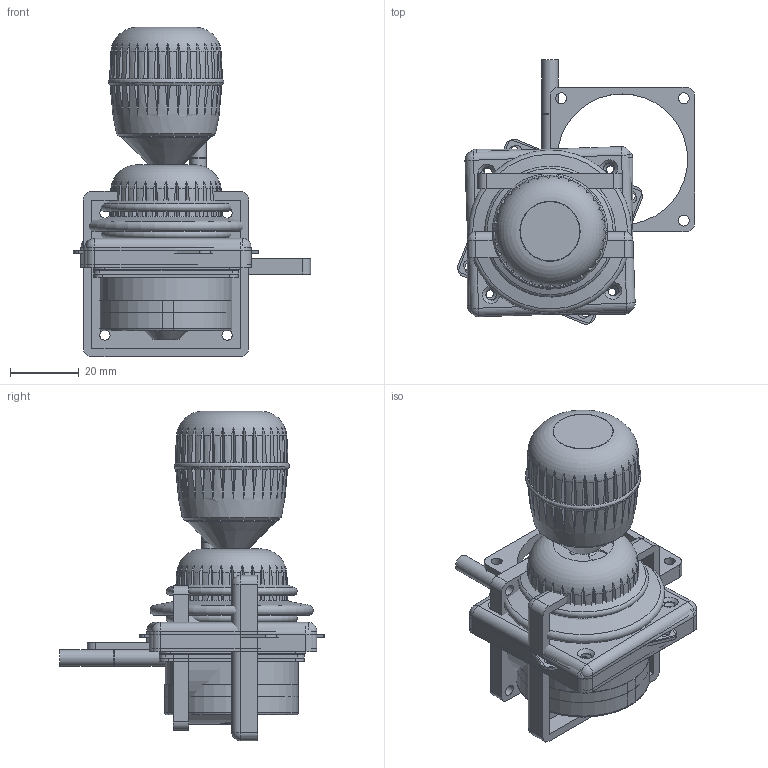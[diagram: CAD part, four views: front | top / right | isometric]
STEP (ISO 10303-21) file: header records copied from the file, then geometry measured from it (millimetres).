
FILE_DESCRIPTION( ( 'Unknown' ), '1' );
FILE_NAME( 'S:/SwitchPanels/Radek/Joysticks/3000/3000/3140SAL600/3140SAL600.stp', 'Unknown', ( 'Unknown' ), ( 'Unknown' ), 'PSStep 13.0', 'Unknown', ' ' );
FILE_SCHEMA( ( 'AUTOMOTIVE_DESIGN { 1 0 10303 214 1 1 1 1 }' ) );
Length unit declared in the file: millimetre
Products named in the file (37): AP 001; AP 008; 3000 NoKnob_0; AP 004; AP 005; AP 003; AP 006; 314; Assem1; AP 007; 3000 Shaft ball; 3000 Lever; 3000 Ball pivot; 3000 body square; 3000 body round; 3000 carming lock1; 3000 base brass; 3000 cone base; 3000 magnet; 3000 pcb ring; 3000 ic; 3000 pcb; 3000 metal plate; 3000 body base; 3000 starlock; 3000 starlock base; 3000 spring; 3000 Holder-spring; 3000 cone; 3000 geitor base; BEZEL; 910144 Bsh 3 Axis Finishing Cap; 910143 Bsh 3 Axis Knob Plastic; 910140 Fixed 3 axis Knob; 910076 3 Axis Lower Body Plastic; COMPRESSED GAITOR
Bounding box: 68.91 x 76.88 x 95.66 mm (x, y, z)
Volume: 220414.2 mm3; surface area: 287060.9 mm2
Topology: 157 solids, 157 shells, 3586 faces, 9189 edges, 6035 vertices
Faces by surface type: plane 2179, cylinder 1093, torus 99, bspline 87, cone 75, sphere 53
Full cylindrical faces by diameter (mm): 1.3 x8, 1.6 x27, 1.85 x4, 1.9 x32, 2 x4, 3 x64, 3.1 x16, 3.2 x32, 3.5 x7, 4.113 x9, 4.5 x8, 4.6 x2, 4.8 x49, 4.85 x5, 5.5 x4, 6 x2, 6.481 x2, 6.7 x2, 7 x2, 8 x5, 8.2 x5, 10.8 x5, 10.9 x5, 11.032 x5, 11.45 x5, 13.5 x5, 13.732 x5, 15.48 x2, 16.98 x2, 17.25 x2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
Entity records: 38197 total; most frequent: CARTESIAN_POINT 13040, ORIENTED_EDGE 3742, DIRECTION 3703, EDGE_CURVE 1871, AXIS2_PLACEMENT_3D 1442, VERTEX_POINT 1305, EDGE_LOOP 1054, FACE_OUTER_BOUND 901
